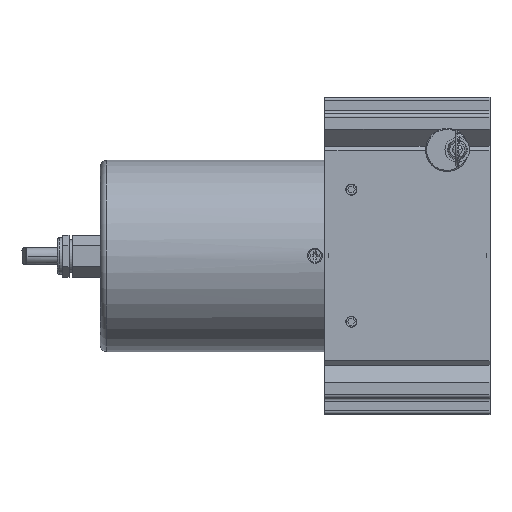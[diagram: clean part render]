
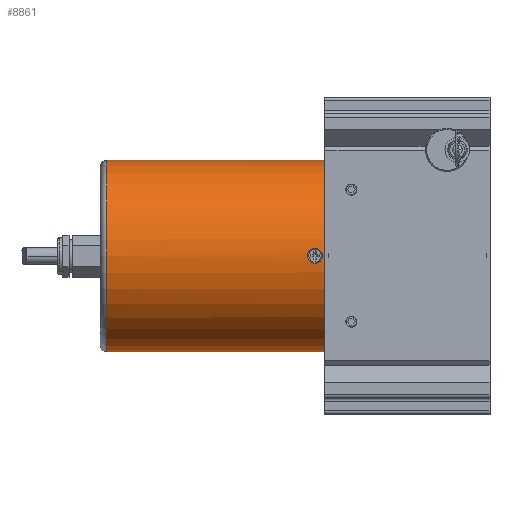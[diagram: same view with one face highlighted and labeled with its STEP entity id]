
A CAD part, top view. The second image highlights one B-rep face of the part: STEP entity #8861.
In plain terms, the highlighted cylindrical face has radius 29 mm (diameter 58 mm), a partial arc.
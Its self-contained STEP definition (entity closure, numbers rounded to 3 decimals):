
#283=CARTESIAN_POINT('',(-114.,0.,0.));
#284=DIRECTION('',(1.,0.,0.));
#285=DIRECTION('',(0.,1.,0.));
#286=AXIS2_PLACEMENT_3D('',#283,#284,#285);
#288=CARTESIAN_POINT('',(-114.,0.,0.));
#289=DIRECTION('',(1.,0.,0.));
#290=DIRECTION('',(0.,1.,0.008));
#291=AXIS2_PLACEMENT_3D('',#288,#289,#290);
#419=DIRECTION('',(-1.,0.,0.));
#420=VECTOR('',#419,66.);
#421=CARTESIAN_POINT('',(-48.,29.,0.));
#422=LINE('',#421,#420);
#1459=CARTESIAN_POINT('',(-51.,2.215,28.915));
#1460=CARTESIAN_POINT('',(-50.796,2.215,28.915));
#1461=CARTESIAN_POINT('',(-50.401,2.165,28.919));
#1462=CARTESIAN_POINT('',(-49.829,1.937,28.936));
#1463=CARTESIAN_POINT('',(-49.341,1.571,28.958));
#1464=CARTESIAN_POINT('',(-48.973,1.1,28.981));
#1465=CARTESIAN_POINT('',(-48.744,0.549,
28.997));
#1466=CARTESIAN_POINT('',(-48.675,-0.025,
29.002));
#1467=CARTESIAN_POINT('',(-48.757,-0.593,
28.996));
#1468=CARTESIAN_POINT('',(-48.99,-1.127,
28.98));
#1469=CARTESIAN_POINT('',(-49.356,-1.584,
28.958));
#1470=CARTESIAN_POINT('',(-49.835,-1.94,
28.936));
#1471=CARTESIAN_POINT('',(-50.4,-2.164,
28.919));
#1472=CARTESIAN_POINT('',(-50.795,-2.215,
28.915));
#1473=CARTESIAN_POINT('',(-51.,-2.215,28.915));
#1513=CARTESIAN_POINT('',(-51.,-2.215,28.915));
#1514=CARTESIAN_POINT('',(-51.204,-2.215,
28.915));
#1515=CARTESIAN_POINT('',(-51.599,-2.165,
28.919));
#1516=CARTESIAN_POINT('',(-52.171,-1.937,
28.936));
#1517=CARTESIAN_POINT('',(-52.659,-1.571,28.958));
#1518=CARTESIAN_POINT('',(-53.027,-1.1,
28.981));
#1519=CARTESIAN_POINT('',(-53.256,-0.549,
28.997));
#1520=CARTESIAN_POINT('',(-53.325,0.025,
29.002));
#1521=CARTESIAN_POINT('',(-53.243,0.593,
28.996));
#1522=CARTESIAN_POINT('',(-53.01,1.127,28.98));
#1523=CARTESIAN_POINT('',(-52.644,1.584,28.958));
#1524=CARTESIAN_POINT('',(-52.165,1.94,28.936));
#1525=CARTESIAN_POINT('',(-51.6,2.164,28.919));
#1526=CARTESIAN_POINT('',(-51.205,2.215,28.915));
#1527=CARTESIAN_POINT('',(-51.,2.215,28.915));
#1533=DIRECTION('',(-1.,0.,0.));
#1534=VECTOR('',#1533,66.);
#1535=CARTESIAN_POINT('',(-48.,-29.,0.));
#1536=LINE('',#1535,#1534);
#1552=CARTESIAN_POINT('',(-48.,0.,0.));
#1553=DIRECTION('',(1.,0.,0.));
#1554=DIRECTION('',(0.,1.,0.));
#1555=AXIS2_PLACEMENT_3D('',#1552,#1553,#1554);
#6581=CARTESIAN_POINT('',(-48.,-29.,0.));
#6582=CARTESIAN_POINT('',(-48.,29.,0.));
#6583=VERTEX_POINT('',#6581);
#6584=VERTEX_POINT('',#6582);
#6597=CARTESIAN_POINT('',(-114.,-29.,0.));
#6598=VERTEX_POINT('',#6597);
#6599=CARTESIAN_POINT('',(-114.,29.,0.));
#6600=VERTEX_POINT('',#6599);
#6615=CARTESIAN_POINT('',(-114.,28.999,0.218));
#6616=VERTEX_POINT('',#6615);
#6644=VERTEX_POINT('',#1513);
#6645=VERTEX_POINT('',#1527);
#8844=CARTESIAN_POINT('',(-116.,0.,0.));
#8845=DIRECTION('',(1.,0.,0.));
#8846=DIRECTION('',(0.,1.,0.));
#8847=AXIS2_PLACEMENT_3D('',#8844,#8845,#8846);
#8848=CYLINDRICAL_SURFACE('',#8847,29.);
#8850=ORIENTED_EDGE('',*,*,#8849,.T.);
#8851=ORIENTED_EDGE('',*,*,#7181,.T.);
#8852=ORIENTED_EDGE('',*,*,#7147,.F.);
#8853=ORIENTED_EDGE('',*,*,#7145,.F.);
#8854=ORIENTED_EDGE('',*,*,#7177,.F.);
#8855=EDGE_LOOP('',(#8850,#8851,#8852,#8853,#8854));
#8856=FACE_OUTER_BOUND('',#8855,.F.);
#8857=ORIENTED_EDGE('',*,*,#8836,.F.);
#8858=ORIENTED_EDGE('',*,*,#8744,.F.);
#8859=EDGE_LOOP('',(#8857,#8858));
#8860=FACE_BOUND('',#8859,.F.);
#8861=ADVANCED_FACE('',(#8856,#8860),#8848,.T.);
#287=CIRCLE('',#286,29.);
#292=CIRCLE('',#291,29.);
#1474=B_SPLINE_CURVE_WITH_KNOTS('',3,(#1459,#1460,#1461,#1462,#1463,#1464,#1465,
#1466,#1467,#1468,#1469,#1470,#1471,#1472,#1473),.UNSPECIFIED.,.F.,.F.,(4,1,1,1,
1,1,1,1,1,1,1,1,4),(0.,0.083,0.167,0.25,
0.333,0.417,0.5,0.583,0.667,
0.75,0.833,0.917,1.),.UNSPECIFIED.);
#1528=B_SPLINE_CURVE_WITH_KNOTS('',3,(#1513,#1514,#1515,#1516,#1517,#1518,#1519,
#1520,#1521,#1522,#1523,#1524,#1525,#1526,#1527),.UNSPECIFIED.,.F.,.F.,(4,1,1,1,
1,1,1,1,1,1,1,1,4),(0.,0.083,0.167,0.25,
0.333,0.417,0.5,0.583,0.667,
0.75,0.833,0.917,1.),.UNSPECIFIED.);
#1556=CIRCLE('',#1555,29.);
#7145=EDGE_CURVE('',#6600,#6616,#287,.T.);
#7147=EDGE_CURVE('',#6616,#6598,#292,.T.);
#7177=EDGE_CURVE('',#6584,#6600,#422,.T.);
#7181=EDGE_CURVE('',#6583,#6598,#1536,.T.);
#8744=EDGE_CURVE('',#6645,#6644,#1474,.T.);
#8836=EDGE_CURVE('',#6644,#6645,#1528,.T.);
#8849=EDGE_CURVE('',#6584,#6583,#1556,.T.);
